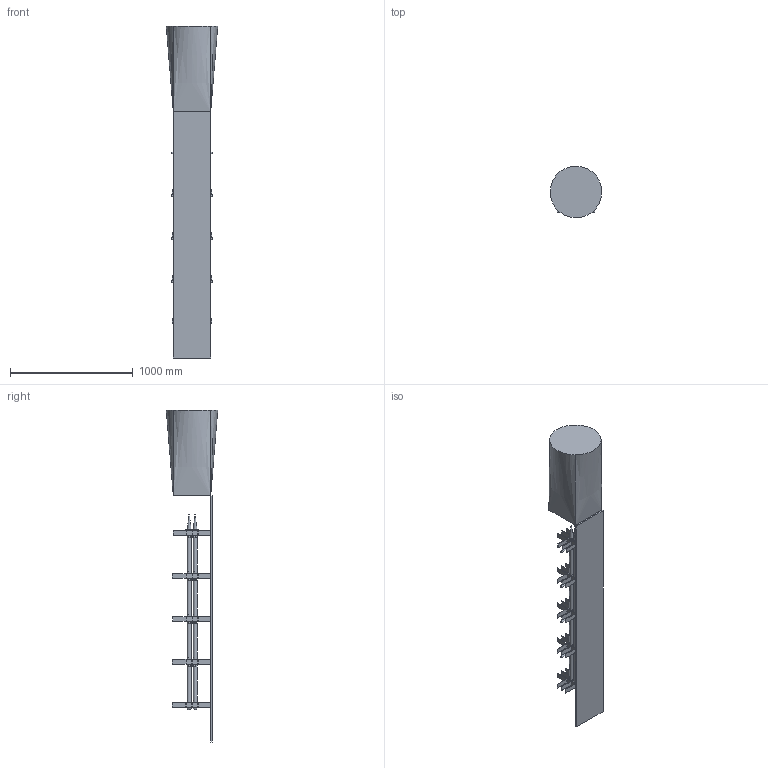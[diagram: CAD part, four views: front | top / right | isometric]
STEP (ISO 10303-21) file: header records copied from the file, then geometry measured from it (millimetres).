
FILE_DESCRIPTION( ( 'As Built Model Rev F' ), '1' );
FILE_NAME( 'D:/Dropbox/Fuel Rods NEUP Models/As Built Models/1D As Built/Experiment Complete 1D As Built Rev F.stp', '2016-05-05T21:34:49', ( 'Kyle Jones' ), ( 'Utah State University' ), 'PSStep 17.0.49', 'Fuel Rods NEUP', ' ' );
FILE_SCHEMA( ( 'AUTOMOTIVE_DESIGN { 1 0 10303 214 1 1 1 1 }' ) );
Length unit declared in the file: metre
Products named in the file (99): GSConduit_23; ALCenterTee; CeramicCover_1D; AlConnector_2_T; ALExtension1D_T; AlConnector_2_B; CenterTee_FishMouth; AlConnector_B; ALExtension1D_B; AlConnector_T; G2Conduit_23; G4Conduit_23; G2Conduit_14; G3Conduit_23; G4Conduit_14; Rods 1D As Built; Rod 1; Rod 2; Rod 3; Rod 4; Cone1; Cone2; Cone3; Cone4; G3Conduit_14; GSConduit_14; Assem1; Fluid Volume Outlet; Spacer 1 Solid; Spacer 2 Solid; Spacer 3 Solid; Spacer 4 Solid; Spacer Struct Solid; Hanger14; Hanger23; AluminumPlate
Assembly tree (98 placements, depth 3):
  Assem1
    Fluid Volume Outlet
    Spacer 1 Solid
    Spacer 2 Solid
    Spacer 3 Solid
    Spacer 4 Solid
    Spacer Struct Solid
    Hanger14
    Hanger23
    AluminumPlate
    G2Conduit_14
      AlConnector_2_T
      ALCenterTee
      CeramicCover_1D
      ALExtension1D_T
      AlConnector_2_B
      CenterTee_FishMouth
      AlConnector_B
      ALExtension1D_B
      AlConnector_T
    G2Conduit_23
      ALCenterTee
      CeramicCover_1D
      AlConnector_2_T
      ALExtension1D_T
      AlConnector_2_B
      CenterTee_FishMouth
      AlConnector_B
      ALExtension1D_B
      AlConnector_T
    G3Conduit_14
      ALCenterTee
      CeramicCover_1D
      AlConnector_2_T
      ALExtension1D_T
      AlConnector_2_B
      CenterTee_FishMouth
      AlConnector_B
      ALExtension1D_B
      AlConnector_T
    G3Conduit_23
      ALCenterTee
      CeramicCover_1D
      AlConnector_2_T
      ALExtension1D_T
      AlConnector_2_B
      CenterTee_FishMouth
      AlConnector_B
      ALExtension1D_B
      AlConnector_T
    G4Conduit_14
      ALCenterTee
      CeramicCover_1D
      AlConnector_2_T
      ALExtension1D_T
      AlConnector_2_B
      CenterTee_FishMouth
      AlConnector_B
      ALExtension1D_B
      AlConnector_T
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Bounding box: 418.53 x 418.53 x 2700.48 mm (x, y, z)
Volume: 93795625.9 mm3; surface area: 4059276.4 mm2
Topology: 89 solids, 93 shells, 839 faces, 1817 edges, 1144 vertices
Faces by surface type: plane 637, cylinder 150, bspline 47, cone 4, sphere 1
Full cylindrical faces by diameter (mm): 9.576 x4, 15.875 x72, 31.725 x1, 31.852 x1
Entity records: 42448 total; most frequent: CARTESIAN_POINT 16680, DIRECTION 3613, ORIENTED_EDGE 3340, EDGE_CURVE 1670, LINE 1349, VECTOR 1349, AXIS2_PLACEMENT_3D 1132, VERTEX_POINT 1095
